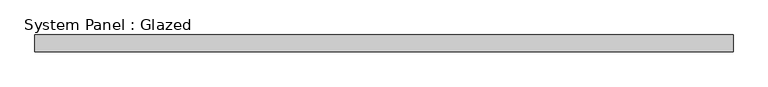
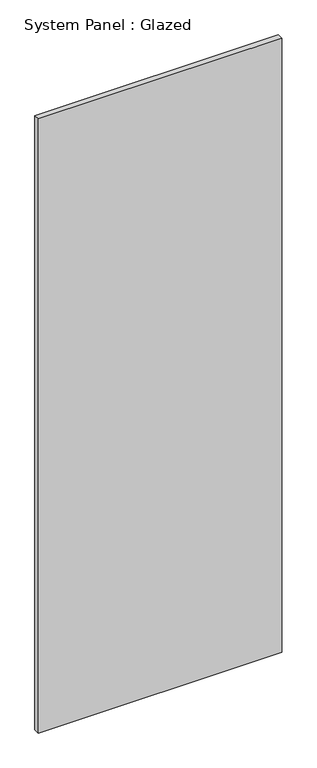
"""IFC4 building model written with IfcOpenShell, lengths in millimetres: plate geometry, System Panel : Glazed."""

from ifc_helpers import new_model, si_unit, origin, origin_with_axes, place, context, project, spatial, polyline, outline, extrude, source, transform, mapped, element, save


def system_panel_glazed_58638c5e(model_context):
    return source(origin(), model_context, "Body", "SweptSolid", [
        extrude(outline(polyline([(525.0000002, 0.0), (-525.0000002, 0.0), (-525.0000002, 25.0), (525.0000002, 25.0), (525.0000002, 0.0)])), origin_with_axes(), (0.0, 0.0, 1.0), 2800.0),
    ])


if __name__ == "__main__":
    model = new_model("IFC4")
    model_context = context("Model", 3, world=origin())
    ifc_project = project(units=[si_unit("LENGTHUNIT", "METRE", prefix="MILLI")], contexts=[model_context])
    site = spatial("IfcSite", under=ifc_project)
    building = spatial("IfcBuilding", under=site)
    placement = place(None, origin())
    system_panel_glazed_shape = system_panel_glazed_58638c5e(model_context)
    element("IfcPlate", 1, ObjectType="System Panel : Glazed", at=placement, inside=building, context=model_context, shape_type="MappedRepresentation", body=[
        mapped(system_panel_glazed_shape, transform((0.0, 0.0, 0.0), x_axis=(1.0, 0.0, 0.0), y_axis=(0.0, 1.0, 0.0), z_axis=(0.0, 0.0, 1.0))),
    ])
    save(model, "model.ifc")
